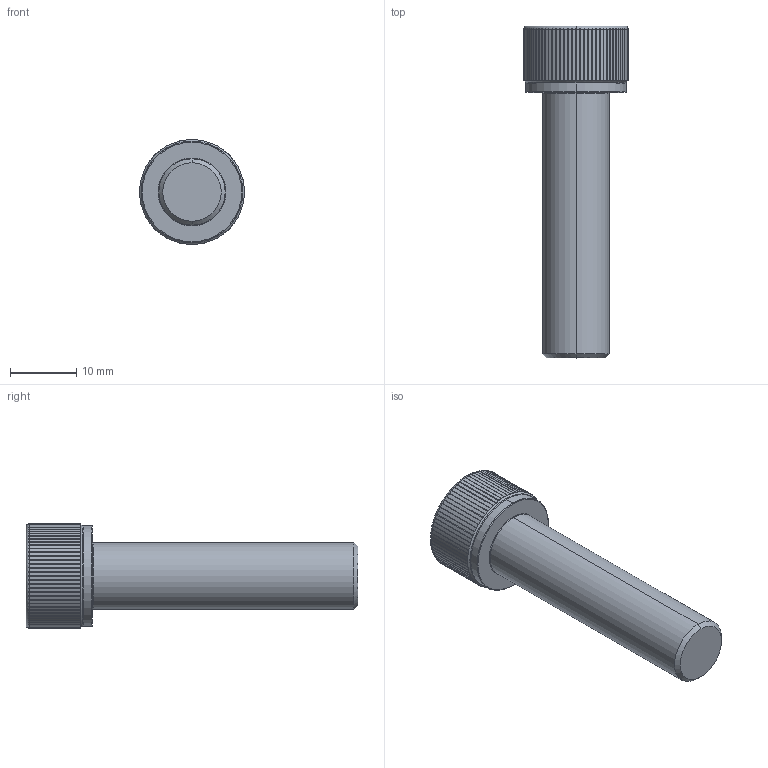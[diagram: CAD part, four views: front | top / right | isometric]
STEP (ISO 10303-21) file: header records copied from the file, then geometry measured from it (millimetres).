
FILE_DESCRIPTION (( 'STEP AP203' ), '1' );
FILE_NAME ('LGDT-304-M10x40.STEP', '2026-08-10T07:22:15', ( '' ), ( '' ), 'SwSTEP 2.0', 'SolidWorks 2020', '' );
FILE_SCHEMA (( 'CONFIG_CONTROL_DESIGN' ));
Length unit declared in the file: millimetre
Products named in the file (1): LGDT-304-M10x40
Bounding box: 15.8 x 50 x 15.8 mm (x, y, z)
Volume: 4736.7 mm3; surface area: 2273.7 mm2
Topology: 1 solids, 1 shells, 204 faces, 576 edges, 376 vertices
Faces by surface type: cylinder 175, cone 11, plane 10, torus 8
Entity records: 8367 total; most frequent: CARTESIAN_POINT 3208, ORIENTED_EDGE 1152, DIRECTION 988, EDGE_CURVE 576, AXIS2_PLACEMENT_3D 398, VERTEX_POINT 376, EDGE_LOOP 206, FACE_OUTER_BOUND 204
